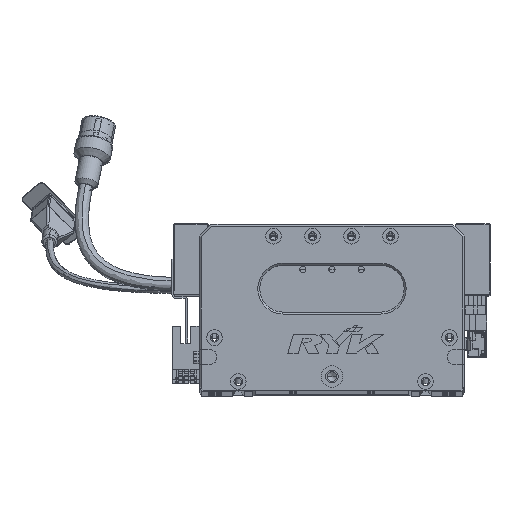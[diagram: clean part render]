
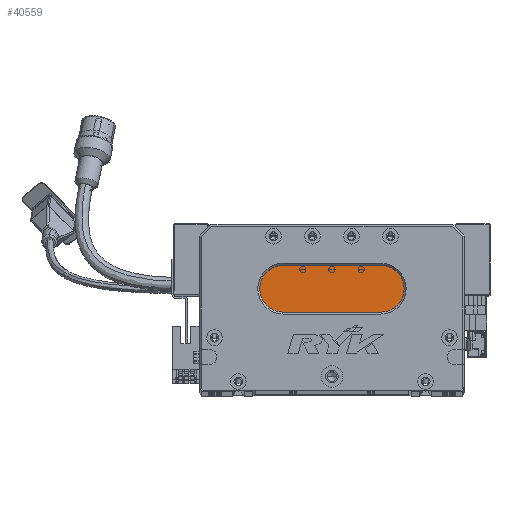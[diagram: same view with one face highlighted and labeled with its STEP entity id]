
A CAD part, top view. The second image highlights one B-rep face of the part: STEP entity #40559.
In plain terms, the highlighted planar face has unit normal (0, 0, 1) as drawn and (0, 0, -1) by its records, which use the part's own axes.
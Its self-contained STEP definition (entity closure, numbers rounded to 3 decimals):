
#1734 = DIRECTION ( 'NONE',  ( 0., 0., -1. ) ) ;
#2597 = VERTEX_POINT ( 'NONE', #70280 ) ;
#6496 = AXIS2_PLACEMENT_3D ( 'NONE', #8659, #1734, #16821 ) ;
#6546 = ORIENTED_EDGE ( 'NONE', *, *, #45220, .T. ) ;
#7752 = ORIENTED_EDGE ( 'NONE', *, *, #96474, .T. ) ;
#8659 = CARTESIAN_POINT ( 'NONE',  ( 93., 52., 13. ) ) ;
#10421 = VECTOR ( 'NONE', #77441, 1000. ) ;
#13312 = FACE_OUTER_BOUND ( 'NONE', #48207, .T. ) ;
#16821 = DIRECTION ( 'NONE',  ( -1., 0., 0. ) ) ;
#17367 = CARTESIAN_POINT ( 'NONE',  ( 93., 52., 13. ) ) ;
#22278 = EDGE_CURVE ( 'NONE', #2597, #52124, #85298, .T. ) ;
#22927 = CARTESIAN_POINT ( 'NONE',  ( 93., 40., 13. ) ) ;
#24916 = DIRECTION ( 'NONE',  ( -1., 0., 0. ) ) ;
#28649 = VERTEX_POINT ( 'NONE', #42529 ) ;
#32925 = CARTESIAN_POINT ( 'NONE',  ( 43., 40., 13. ) ) ;
#33646 = VERTEX_POINT ( 'NONE', #32925 ) ;
#34068 = VECTOR ( 'NONE', #78785, 1000. ) ;
#38956 = CARTESIAN_POINT ( 'NONE',  ( 93., 64., 13. ) ) ;
#40047 = PLANE ( 'NONE',  #6496 ) ;
#40559 = ADVANCED_FACE ( 'NONE', ( #13312 ), #40047, .T. ) ;
#40709 = AXIS2_PLACEMENT_3D ( 'NONE', #81861, #82189, #65540 ) ;
#40940 = DIRECTION ( 'NONE',  ( 0., 0., -1. ) ) ;
#41213 = ORIENTED_EDGE ( 'NONE', *, *, #94112, .T. ) ;
#41497 = AXIS2_PLACEMENT_3D ( 'NONE', #49477, #56988, #88570 ) ;
#42529 = CARTESIAN_POINT ( 'NONE',  ( 93., 40., 13. ) ) ;
#45220 = EDGE_CURVE ( 'NONE', #89841, #2597, #67619, .T. ) ;
#48207 = EDGE_LOOP ( 'NONE', ( #100896, #41213, #7752, #6546, #100533 ) ) ;
#49477 = CARTESIAN_POINT ( 'NONE',  ( 43., 52., 13. ) ) ;
#52124 = VERTEX_POINT ( 'NONE', #63069 ) ;
#56988 = DIRECTION ( 'NONE',  ( 0., 0., -1. ) ) ;
#63069 = CARTESIAN_POINT ( 'NONE',  ( 93., 64., 13. ) ) ;
#65540 = DIRECTION ( 'NONE',  ( -1., 0., 0. ) ) ;
#67619 = CIRCLE ( 'NONE', #41497, 12. ) ;
#70280 = CARTESIAN_POINT ( 'NONE',  ( 43., 64., 13. ) ) ;
#70955 = CARTESIAN_POINT ( 'NONE',  ( 31., 52., 13. ) ) ;
#73520 = CIRCLE ( 'NONE', #40709, 12. ) ;
#75174 = EDGE_CURVE ( 'NONE', #52124, #28649, #99112, .T. ) ;
#77441 = DIRECTION ( 'NONE',  ( -1., 0., 0. ) ) ;
#78785 = DIRECTION ( 'NONE',  ( 1., 0., 0. ) ) ;
#81861 = CARTESIAN_POINT ( 'NONE',  ( 43., 52., 13. ) ) ;
#82189 = DIRECTION ( 'NONE',  ( 0., 0., -1. ) ) ;
#85298 = LINE ( 'NONE', #38956, #34068 ) ;
#88570 = DIRECTION ( 'NONE',  ( -1., 0., 0. ) ) ;
#89841 = VERTEX_POINT ( 'NONE', #70955 ) ;
#94112 = EDGE_CURVE ( 'NONE', #28649, #33646, #95808, .T. ) ;
#95808 = LINE ( 'NONE', #22927, #10421 ) ;
#96474 = EDGE_CURVE ( 'NONE', #33646, #89841, #73520, .T. ) ;
#97150 = AXIS2_PLACEMENT_3D ( 'NONE', #17367, #40940, #24916 ) ;
#99112 = CIRCLE ( 'NONE', #97150, 12. ) ;
#100533 = ORIENTED_EDGE ( 'NONE', *, *, #22278, .T. ) ;
#100896 = ORIENTED_EDGE ( 'NONE', *, *, #75174, .T. ) ;
